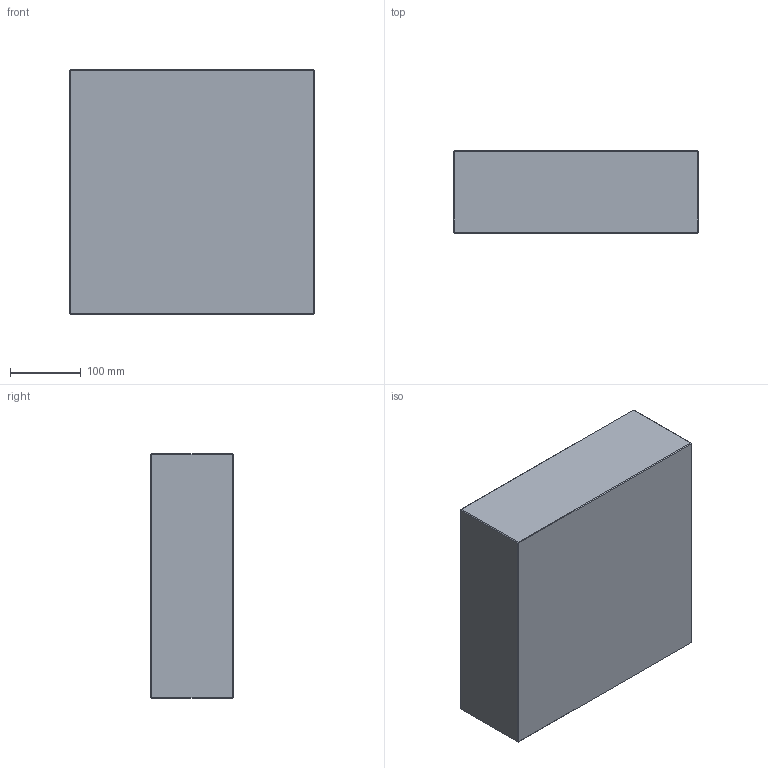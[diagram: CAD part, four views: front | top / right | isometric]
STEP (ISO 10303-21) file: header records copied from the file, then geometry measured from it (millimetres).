
FILE_DESCRIPTION (( 'STEP AP214' ), '1' );
FILE_NAME ('PC-P-346x346x116.STEP', '2020-04-01T10:03:08', ( 'August' ), ( '' ), 'SwSTEP 2.0', 'SolidWorks 2018', '' );
FILE_SCHEMA (( 'AUTOMOTIVE_DESIGN' ));
Length unit declared in the file: millimetre
Products named in the file (1): PC-P-346x346x116
Bounding box: 346 x 116 x 346 mm (x, y, z)
Volume: 13885445.3 mm3; surface area: 398079.7 mm2
Topology: 1 solids, 1 shells, 26 faces, 48 edges, 24 vertices
Faces by surface type: plane 26
Entity records: 634 total; most frequent: DIRECTION 102, CARTESIAN_POINT 99, ORIENTED_EDGE 96, VECTOR 48, LINE 48, EDGE_CURVE 48, AXIS2_PLACEMENT_3D 27, EDGE_LOOP 26
